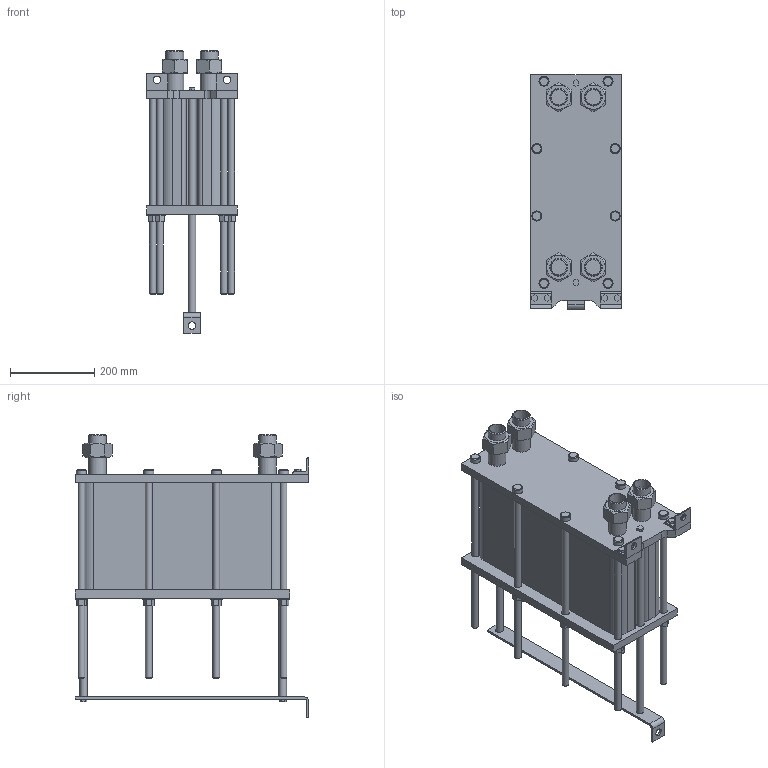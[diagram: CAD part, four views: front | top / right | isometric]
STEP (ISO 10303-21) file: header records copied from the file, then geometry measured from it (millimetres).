
FILE_DESCRIPTION(/* description */ (''),/* implementation_level */ '2;1');
FILE_NAME(/* name */ 'C:\Users\zhuro\Desktop\ENCO\TO\ЭН-004\ЭН-0,5-004-82-1.stp',/* time_stamp */ '2022-06-06T10:50:24+03:00',/* author */ ('zhuro'),/* organization */ (''),/* preprocessor_version */ 'ST-DEVELOPER v18.1',/* originating_system */ 'Autodesk Inventor 2022',/* authorisation */ '');
FILE_SCHEMA (('AUTOMOTIVE_DESIGN { 1 0 10303 214 3 1 1 }'));
Length unit declared in the file: millimetre
Products named in the file (1): ЭН-0,5-004-82-1
Bounding box: 216 x 555 x 670.6 mm (x, y, z)
Volume: 24755368.5 mm3; surface area: 1509186.8 mm2
Topology: 40 solids, 40 shells, 403 faces, 865 edges, 574 vertices
Faces by surface type: plane 272, cylinder 103, cone 28
Full cylindrical faces by diameter (mm): 10 x4, 16 x16, 18 x29, 20 x2, 24 x8, 28 x8, 36.3 x5, 42.3 x9
Entity records: 11137 total; most frequent: CARTESIAN_POINT 1939, DIRECTION 1879, ORIENTED_EDGE 1730, EDGE_CURVE 865, AXIS2_PLACEMENT_3D 658, VERTEX_POINT 574, LINE 563, VECTOR 563
